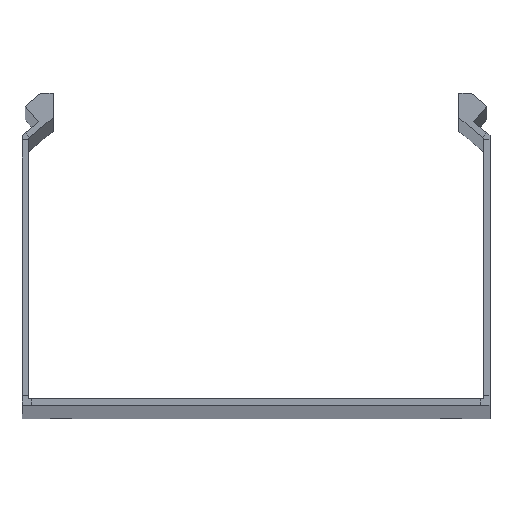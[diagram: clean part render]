
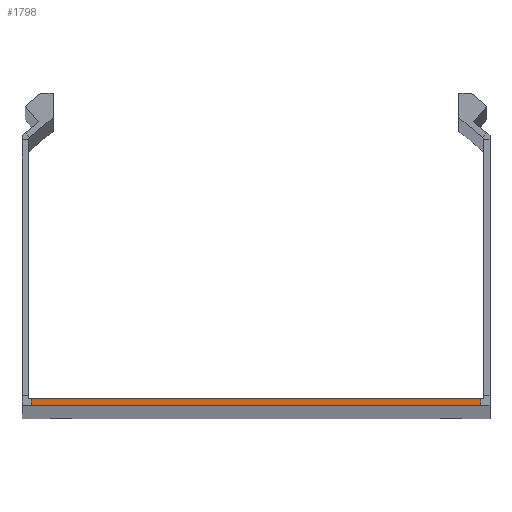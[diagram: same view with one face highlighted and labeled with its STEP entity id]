
A CAD part, top view. The second image highlights one B-rep face of the part: STEP entity #1798.
In plain terms, the highlighted planar face has unit normal (0, 0, 1).
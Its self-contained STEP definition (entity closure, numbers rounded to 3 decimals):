
#9 = EDGE_CURVE ( 'NONE', #3757, #1543, #4779, .T. ) ;
#318 = FACE_OUTER_BOUND ( 'NONE', #2185, .T. ) ;
#380 = DIRECTION ( 'NONE',  ( -1., 0., 0. ) ) ;
#443 = EDGE_CURVE ( 'NONE', #3270, #1707, #2252, .T. ) ;
#601 = VECTOR ( 'NONE', #380, 1000. ) ;
#716 = DIRECTION ( 'NONE',  ( 1., 0., 0. ) ) ;
#1196 = VECTOR ( 'NONE', #2081, 1000. ) ;
#1543 = VERTEX_POINT ( 'NONE', #1836 ) ;
#1634 = CARTESIAN_POINT ( 'NONE',  ( 73., 3., 1250. ) ) ;
#1655 = CARTESIAN_POINT ( 'NONE',  ( 72., 0., 1250. ) ) ;
#1707 = VERTEX_POINT ( 'NONE', #3378 ) ;
#1716 = DIRECTION ( 'NONE',  ( -1., 0., 0. ) ) ;
#1734 = CARTESIAN_POINT ( 'NONE',  ( -75., 0., 1250. ) ) ;
#1798 = ADVANCED_FACE ( 'NONE', ( #318 ), #2522, .T. ) ;
#1836 = CARTESIAN_POINT ( 'NONE',  ( -72., 0., 1250. ) ) ;
#1892 = EDGE_CURVE ( 'NONE', #3757, #3270, #2829, .T. ) ;
#2070 = ORIENTED_EDGE ( 'NONE', *, *, #1892, .T. ) ;
#2081 = DIRECTION ( 'NONE',  ( 0., -1., 0. ) ) ;
#2185 = EDGE_LOOP ( 'NONE', ( #3345, #2070, #4706, #3878 ) ) ;
#2252 = LINE ( 'NONE', #5861, #601 ) ;
#2522 = PLANE ( 'NONE',  #5442 ) ;
#2616 = VECTOR ( 'NONE', #1716, 1000. ) ;
#2829 = LINE ( 'NONE', #1655, #5139 ) ;
#3270 = VERTEX_POINT ( 'NONE', #3511 ) ;
#3345 = ORIENTED_EDGE ( 'NONE', *, *, #9, .F. ) ;
#3378 = CARTESIAN_POINT ( 'NONE',  ( -72., 2., 1250. ) ) ;
#3458 = DIRECTION ( 'NONE',  ( 0., 0., 1. ) ) ;
#3511 = CARTESIAN_POINT ( 'NONE',  ( 72., 2., 1250. ) ) ;
#3757 = VERTEX_POINT ( 'NONE', #4623 ) ;
#3878 = ORIENTED_EDGE ( 'NONE', *, *, #4445, .T. ) ;
#3952 = CARTESIAN_POINT ( 'NONE',  ( -72., 2., 1250. ) ) ;
#4445 = EDGE_CURVE ( 'NONE', #1707, #1543, #5023, .T. ) ;
#4495 = DIRECTION ( 'NONE',  ( 0., 1., 0. ) ) ;
#4623 = CARTESIAN_POINT ( 'NONE',  ( 72., 0., 1250. ) ) ;
#4706 = ORIENTED_EDGE ( 'NONE', *, *, #443, .T. ) ;
#4779 = LINE ( 'NONE', #1734, #2616 ) ;
#5023 = LINE ( 'NONE', #3952, #1196 ) ;
#5139 = VECTOR ( 'NONE', #4495, 1000. ) ;
#5442 = AXIS2_PLACEMENT_3D ( 'NONE', #1634, #3458, #716 ) ;
#5861 = CARTESIAN_POINT ( 'NONE',  ( -75., 2., 1250. ) ) ;
